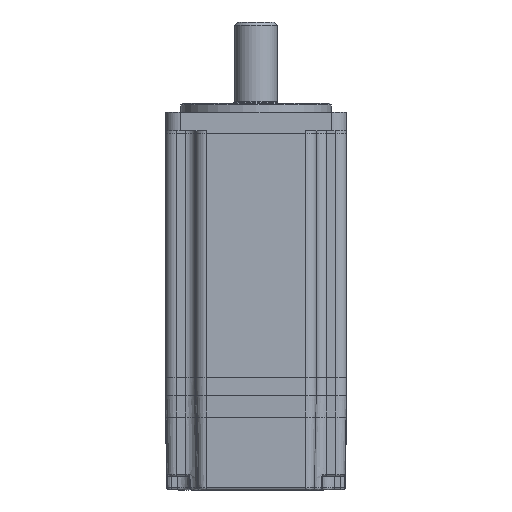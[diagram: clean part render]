
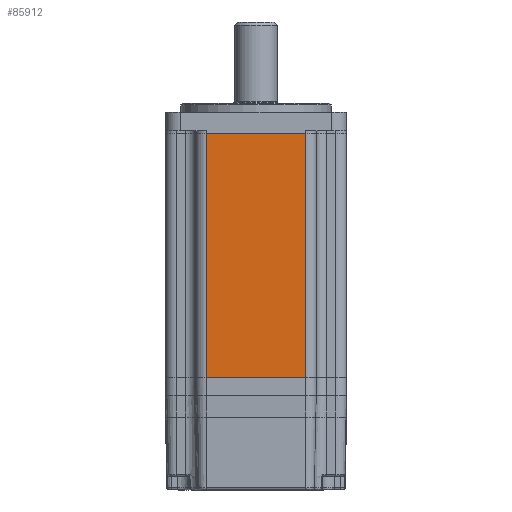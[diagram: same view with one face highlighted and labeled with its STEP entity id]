
A CAD part, front view. The second image highlights one B-rep face of the part: STEP entity #85912.
In plain terms, the highlighted planar face has unit normal (0, -1, 0) as drawn and (-1, 0, 0) by its records, which use the part's own axes.
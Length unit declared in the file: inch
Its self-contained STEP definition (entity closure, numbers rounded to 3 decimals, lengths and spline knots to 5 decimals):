
#619 = CARTESIAN_POINT ( 'NONE',  ( -1.1811, 0.64961, 0. ) ) ;
#990 = LINE ( 'NONE', #50320, #129449 ) ;
#2570 = VECTOR ( 'NONE', #126588, 39.37008 ) ;
#3859 = ORIENTED_EDGE ( 'NONE', *, *, #27303, .F. ) ;
#12278 = CARTESIAN_POINT ( 'NONE',  ( -1.1811, 0.64961, 3.18898 ) ) ;
#23874 = LINE ( 'NONE', #73220, #37938 ) ;
#25916 = VERTEX_POINT ( 'NONE', #619 ) ;
#27303 = EDGE_CURVE ( 'NONE', #70430, #25916, #91920, .T. ) ;
#27847 = LINE ( 'NONE', #77208, #2570 ) ;
#30219 = EDGE_CURVE ( 'NONE', #57835, #43875, #23874, .T. ) ;
#30430 = DIRECTION ( 'NONE',  ( 0., 1., 0. ) ) ;
#31787 = CARTESIAN_POINT ( 'NONE',  ( -1.1811, -0.64961, 3.18898 ) ) ;
#37938 = VECTOR ( 'NONE', #122591, 39.37008 ) ;
#40342 = EDGE_CURVE ( 'NONE', #25916, #57835, #990, .T. ) ;
#43875 = VERTEX_POINT ( 'NONE', #31787 ) ;
#45182 = DIRECTION ( 'NONE',  ( 0., 0., -1. ) ) ;
#50320 = CARTESIAN_POINT ( 'NONE',  ( -1.1811, 0.64961, 3.18898 ) ) ;
#55103 = ORIENTED_EDGE ( 'NONE', *, *, #98152, .F. ) ;
#57309 = PLANE ( 'NONE',  #126130 ) ;
#57835 = VERTEX_POINT ( 'NONE', #12278 ) ;
#61371 = CARTESIAN_POINT ( 'NONE',  ( -1.1811, -0.64961, 0. ) ) ;
#64074 = FACE_OUTER_BOUND ( 'NONE', #105076, .T. ) ;
#70430 = VERTEX_POINT ( 'NONE', #61371 ) ;
#73220 = CARTESIAN_POINT ( 'NONE',  ( -1.1811, 0.7874, 3.18898 ) ) ;
#74163 = ORIENTED_EDGE ( 'NONE', *, *, #40342, .F. ) ;
#77208 = CARTESIAN_POINT ( 'NONE',  ( -1.1811, -0.64961, 3.18898 ) ) ;
#85912 = ADVANCED_FACE ( 'NONE', ( #64074 ), #57309, .F. ) ;
#91920 = LINE ( 'NONE', #141389, #111142 ) ;
#98152 = EDGE_CURVE ( 'NONE', #43875, #70430, #27847, .T. ) ;
#99671 = DIRECTION ( 'NONE',  ( 0., 0., 1. ) ) ;
#105076 = EDGE_LOOP ( 'NONE', ( #3859, #55103, #155369, #74163 ) ) ;
#106641 = CARTESIAN_POINT ( 'NONE',  ( -1.1811, 0.7874, 3.18898 ) ) ;
#111142 = VECTOR ( 'NONE', #30430, 39.37008 ) ;
#122591 = DIRECTION ( 'NONE',  ( 0., -1., 0. ) ) ;
#126130 = AXIS2_PLACEMENT_3D ( 'NONE', #106641, #156079, #45182 ) ;
#126588 = DIRECTION ( 'NONE',  ( 0., 0., -1. ) ) ;
#129449 = VECTOR ( 'NONE', #99671, 39.37008 ) ;
#141389 = CARTESIAN_POINT ( 'NONE',  ( -1.1811, 0.7874, 0. ) ) ;
#155369 = ORIENTED_EDGE ( 'NONE', *, *, #30219, .F. ) ;
#156079 = DIRECTION ( 'NONE',  ( 1., 0., 0. ) ) ;
